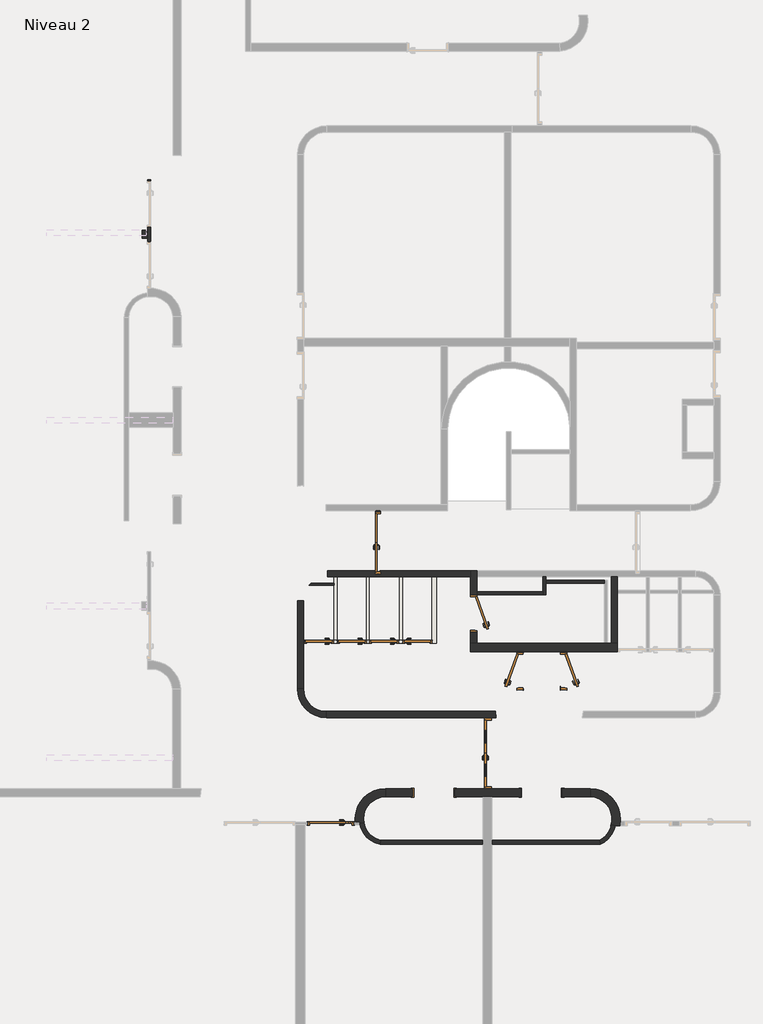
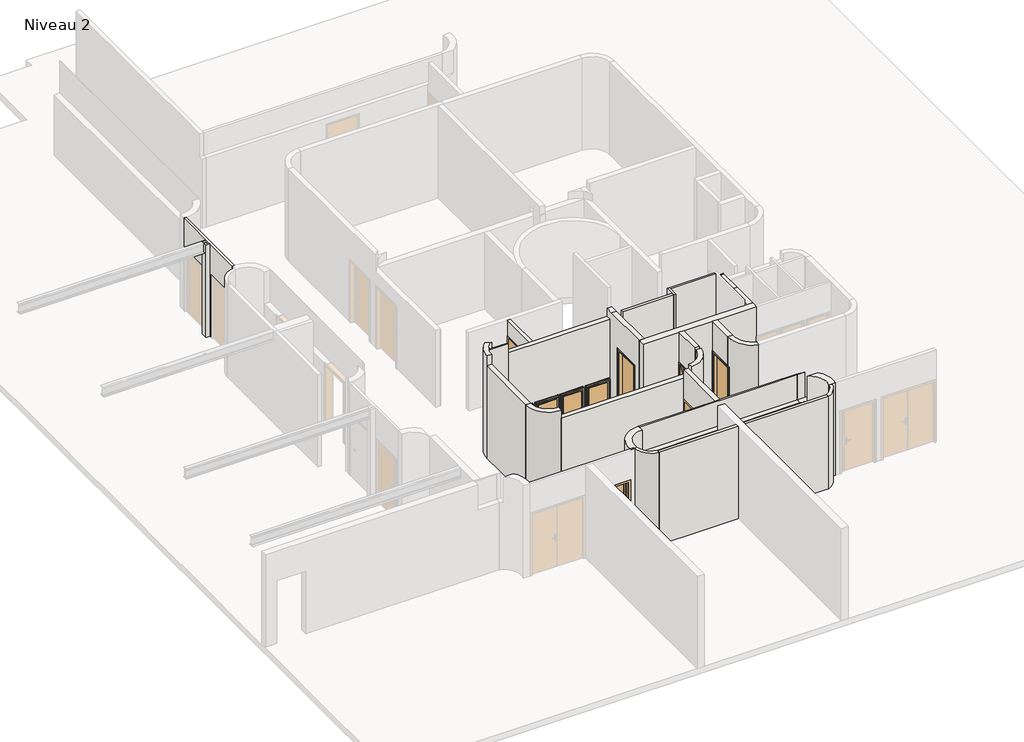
# One storey, part 2 of 5: 32 walls, 12 doors.
"""IFC4 building model written with IfcOpenShell, lengths in millimetres."""

from ifc_helpers import new_model, si_unit, point, frame, frame_2d, origin, place, context, project, spatial, polyline, circle_curve, trimmed, segment, composite_curve, outline, extrude, faceted_brep, transform, mapped, element, save
from ifc_brep_helpers import plane_surface, cylinder_surface, revolved_surface, advanced_brep
from components import door_50a5e481, door_d545ad62, door_cb0b5031, door_c699e053, door_1_10m_x_2_04m_5cb44dee, door_1_63m_x_2_04m_9200e95c, double_r_1_43m_x_2_04m_b80630db, ouverture_en_rectangle_ouverture100x200_67694711, ouverture_en_rectangle_ouverture100x200_505217bf

model = new_model("IFC4")

# Units and contexts
model_context = context("Model", 3, world=origin())
ifc_project = project(units=[si_unit("LENGTHUNIT", "METRE", prefix="MILLI")], contexts=[model_context])

# Site, building, storey
site = spatial("IfcSite", under=ifc_project)
building = spatial("IfcBuilding", under=site)
storey = spatial("IfcBuildingStorey", under=building, Name="Niveau 2", Elevation=7367.3082742)

# Doors
placement = place(None, origin())
door_shape = door_50a5e481(model_context)
element("IfcDoor", 1, ObjectType="@_Int. Simple : @_PP (0.63m x 2.04m)", at=placement, inside=storey, context=model_context, shape_type="MappedRepresentation", body=[
    mapped(door_shape, transform((-15459.9931353, -10489.7074645, 7367.3082742), x_axis=(-1.0, 0.0, 0.0), y_axis=(0.0, -1.0, 0.0), z_axis=(0.0, 0.0, 1.0))),
])
element("IfcDoor", 2, ObjectType="@_Int. Simple : @_PP (0.63m x 2.04m)", at=placement, inside=storey, context=model_context, shape_type="MappedRepresentation", body=[
    mapped(door_shape, transform((-14664.2475761, -10489.7074645, 7367.3082742), x_axis=(-1.0, 0.0, 0.0), y_axis=(0.0, -1.0, 0.0), z_axis=(0.0, 0.0, 1.0))),
])
element("IfcDoor", 3, ObjectType="@_Int. Simple : @_PP (0.63m x 2.04m)", at=placement, inside=storey, context=model_context, shape_type="MappedRepresentation", body=[
    mapped(door_shape, transform((-13884.4973372, -10489.7074645, 7367.3082742), x_axis=(-1.0, 0.0, 0.0), y_axis=(0.0, -1.0, 0.0), z_axis=(0.0, 0.0, 1.0))),
])
door_2_shape = door_d545ad62(model_context)
element("IfcDoor", 4, ObjectType="@_Int. Simple : @_PP (0.63m x 2.04m)", at=placement, inside=storey, context=model_context, shape_type="MappedRepresentation", body=[
    mapped(door_2_shape, transform((-13012.8227922, -10489.7074645, 7367.3082742), x_axis=(1.0, 0.0, 0.0), y_axis=(0.0, 1.0, 0.0), z_axis=(0.0, 0.0, 1.0))),
])
door_3_shape = door_cb0b5031(model_context)
element("IfcDoor", 5, ObjectType="@_Int. Simple : @_PP (0.83m x 2.04m)", at=placement, inside=storey, context=model_context, shape_type="MappedRepresentation", body=[
    mapped(door_3_shape, transform((-11687.2987936, -9770.8638272, 7367.3082742), x_axis=(5.461864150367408e-11, 1.0, 0.0), y_axis=(-1.0, 5.461864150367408e-11, 0.0), z_axis=(0.0, 0.0, 1.0))),
])
element("IfcDoor", 6, ObjectType="@_Int. Simple : @_PP (0.83m x 2.04m)", at=placement, inside=storey, context=model_context, shape_type="MappedRepresentation", body=[
    mapped(door_3_shape, transform((-9520.6528784, -11157.3402809, 7367.3082742), x_axis=(5.461864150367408e-11, 1.0, 0.0), y_axis=(-1.0, 5.461864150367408e-11, 0.0), z_axis=(0.0, 0.0, 1.0))),
])
door_4_shape = door_c699e053(model_context)
element("IfcDoor", 7, ObjectType="@_Int. Simple : @_PP (0.83m x 2.04m)", at=placement, inside=storey, context=model_context, shape_type="MappedRepresentation", body=[
    mapped(door_4_shape, transform((-10570.6528784, -11157.3402808, 7367.3082742), x_axis=(5.461864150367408e-11, 1.0, 0.0), y_axis=(-1.0, 5.461864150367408e-11, 0.0), z_axis=(0.0, 0.0, 1.0))),
])
door_1_10m_x_2_04m_shape = door_1_10m_x_2_04m_5cb44dee(model_context)
element("IfcDoor", 8, ObjectType="Tierce  160 : 1.10m x 2.04m", at=placement, inside=storey, context=model_context, shape_type="MappedRepresentation", body=[
    mapped(door_1_10m_x_2_04m_shape, transform((-15138.9891744, -14870.5536882, 7367.3082742), x_axis=(1.0, 0.0, 0.0), y_axis=(0.0, 1.0, 0.0), z_axis=(0.0, 0.0, 1.0))),
])
door_1_63m_x_2_04m_shape = door_1_63m_x_2_04m_9200e95c(model_context)
element("IfcDoor", 9, ObjectType="Double Vitrée  : 1.63m x 2.04m", at=placement, inside=storey, context=model_context, shape_type="MappedRepresentation", body=[
    mapped(door_1_63m_x_2_04m_shape, transform((-11341.4891708, -13181.6151398, 7367.3082742), x_axis=(0.0, -1.0, 0.0), y_axis=(1.0, 0.0, 0.0), z_axis=(0.0, 0.0, 1.0))),
])
double_r_1_43m_x_2_04m_shape = double_r_1_43m_x_2_04m_b80630db(model_context)
element("IfcDoor", 10, ObjectType="Double (R) : 1.43m x 2.04m", at=placement, inside=storey, context=model_context, shape_type="MappedRepresentation", body=[
    mapped(double_r_1_43m_x_2_04m_shape, transform((-13998.9891737, -8101.6151404, 7367.3082742), x_axis=(0.0, -1.0, 0.0), y_axis=(1.0, 0.0, 0.0), z_axis=(0.0, 0.0, 1.0))),
])
ouverture_en_rectangle_ouverture100x200_shape = ouverture_en_rectangle_ouverture100x200_67694711(model_context)
element("IfcDoor", 11, ObjectType="Ouverture en rectangle : Ouverture100x200", at=placement, inside=storey, context=model_context, shape_type="MappedRepresentation", body=[
    mapped(ouverture_en_rectangle_ouverture100x200_shape, transform((-12650.2337603, -14129.1151398, 7367.3082742), x_axis=(1.0, 0.0, 0.0), y_axis=(0.0, 1.0, 0.0), z_axis=(0.0, 0.0, 1.0))),
])
ouverture_en_rectangle_ouverture100x200_2_shape = ouverture_en_rectangle_ouverture100x200_505217bf(model_context)
element("IfcDoor", 12, ObjectType="Ouverture en rectangle : Ouverture100x200", at=placement, inside=storey, context=model_context, shape_type="MappedRepresentation", body=[
    mapped(ouverture_en_rectangle_ouverture100x200_2_shape, transform((-10052.7445853, -14129.1151398, 7367.3082742), x_axis=(-1.0, 0.0, 0.0), y_axis=(0.0, -1.0, 0.0), z_axis=(0.0, 0.0, 1.0))),
])

# Walls
element("IfcWall", 13, ObjectType="@_Générique - Int. 150 mm", at=placement, inside=storey, context=model_context, shape_type="SweptSolid", body=[
    extrude(outline(polyline([(-15943.9891695, -11619.072224), (-15943.9891695, -9496.2578551), (-15793.9891695, -9496.2578551), (-15793.9891695, -11619.072224), (-15943.9891695, -11619.072224)])), frame((0.0, 0.0, 7367.3082742), z_axis=(0.0, 0.0, 1.0), x_axis=(1.0, 0.0, 0.0)), (0.0, 0.0, 1.0), 3056.0),
])
element("IfcWall", 14, ObjectType="@_Générique - Int. 150 mm", at=placement, inside=storey, context=model_context, shape_type="SweptSolid", body=[
    extrude(outline(composite_curve([segment(polyline([(-15943.9891697, -11619.0722241), (-15793.9891697, -11619.072224)]), True, "CONTINUOUS"), segment(trimmed(circle_curve(frame_2d((-15243.9891698, -11619.072224)), 549.9999999), [point((-15793.9891697, -11619.072224))], [point((-15243.9891698, -12169.0722239))], True, "CARTESIAN"), True, "CONTINUOUS"), segment(polyline([(-15243.9891698, -12169.0722239), (-15243.9891698, -12319.0722239)]), True, "CONTINUOUS"), segment(trimmed(circle_curve(frame_2d((-15243.9891698, -11619.072224)), 699.9999999), [point((-15243.9891698, -12319.0722239))], [point((-15943.9891697, -11619.0722241))], False, "CARTESIAN"), True, "CONTINUOUS")], self_intersect=False)), frame((0.0, 0.0, 7367.3082742), z_axis=(0.0, 0.0, 1.0), x_axis=(1.0, 0.0, 0.0)), (0.0, 0.0, 1.0), 3056.0),
])
element("IfcWall", 15, ObjectType="@_Générique - Int. 100 mm", at=placement, inside=storey, context=model_context, shape_type="SweptSolid", body=[
    extrude(outline(polyline([(-8771.2578553, 9953.3082742), (-7329.1151392, 9953.3082742), (-7329.1151392, 7367.3082742), (-7351.6151404, 7367.3082742), (-7351.6151404, 9442.3082742), (-8771.2578553, 9442.3082742), (-8771.2578553, 9953.3082742)])), frame((-14048.9891737, 0.0, 0.0), z_axis=(1.0, 0.0, 0.0), x_axis=(0.0, 1.0, 0.0)), (0.0, 0.0, 1.0), 100.0),
])
element("IfcWall", 16, ObjectType="@_Générique - Int. 100 mm", at=placement, inside=storey, context=model_context, shape_type="SweptSolid", body=[
    extrude(outline(composite_curve([segment(polyline([(-13934.8328839, -15276.2959839), (-13945.4132156, -15376.2959839)]), True, "CONTINUOUS"), segment(trimmed(circle_curve(frame_2d((-13818.9783494, -14759.113495)), 630.0), [point((-13945.4132156, -15376.2959839))], [point((-14439.0437358, -14870.5536882))], False, "CARTESIAN"), True, "CONTINUOUS"), segment(polyline([(-14439.0437358, -14870.5536882), (-14340.6206586, -14852.8647686)]), True, "CONTINUOUS"), segment(trimmed(circle_curve(frame_2d((-13818.9783494, -14759.113495)), 530.0), [point((-14340.6206586, -14852.8647686))], [point((-13934.8328839, -15276.2959839))], True, "CARTESIAN"), True, "CONTINUOUS")], self_intersect=False)), frame((0.0, 0.0, 7367.3082742), z_axis=(0.0, 0.0, 1.0), x_axis=(1.0, 0.0, 0.0)), (0.0, 0.0, 1.0), 3056.0),
])
element("IfcWall", 17, ObjectType="@_Générique - Int. 100 mm", at=placement, inside=storey, context=model_context, shape_type="SweptSolid", body=[
    extrude(outline(polyline([(-13934.8328839, -15276.2959839), (-11466.579726, -15276.2959839), (-11466.579726, -15376.2959839), (-13945.4132156, -15376.2959839), (-13934.8328839, -15276.2959839)])), frame((0.0, 0.0, 7367.3082742), z_axis=(0.0, 0.0, 1.0), x_axis=(1.0, 0.0, 0.0)), (0.0, 0.0, 1.0), 3056.0),
])
element("IfcWall", 18, ObjectType="@_Générique - Int. 100 mm", at=placement, inside=storey, context=model_context, shape_type="SweptSolid", body=[
    extrude(outline(composite_curve([segment(polyline([(-8369.3653638, -14903.9262537), (-8271.0746577, -14922.3364981)]), True, "CONTINUOUS"), segment(trimmed(circle_curve(frame_2d((-8875.5625, -14809.1134946)), 615.0), [point((-8271.0746577, -14922.3364981))], [point((-8637.8041693, -15376.2959839))], False, "CARTESIAN"), True, "CONTINUOUS"), segment(polyline([(-8637.8041693, -15376.2959839), (-8658.847199, -15276.2959839)]), True, "CONTINUOUS"), segment(trimmed(circle_curve(frame_2d((-8875.5625, -14809.1134946)), 515.0), [point((-8658.847199, -15276.2959839))], [point((-8369.3653638, -14903.9262537))], True, "CARTESIAN"), True, "CONTINUOUS")], self_intersect=False)), frame((0.0, 0.0, 7367.3082742), z_axis=(0.0, 0.0, 1.0), x_axis=(1.0, 0.0, 0.0)), (0.0, 0.0, 1.0), 3056.0),
])
element("IfcWall", 19, ObjectType="@_Générique - Int. 100 mm", at=placement, inside=storey, context=model_context, shape_type="SweptSolid", body=[
    extrude(outline(polyline([(-8637.8041693, -15376.2959839), (-11246.579726, -15376.2959839), (-11246.579726, -15276.2959839), (-8658.847199, -15276.2959839), (-8637.8041693, -15376.2959839)])), frame((0.0, 0.0, 7367.3082742), z_axis=(0.0, 0.0, 1.0), x_axis=(1.0, 0.0, 0.0)), (0.0, 0.0, 1.0), 3056.0),
])
element("IfcWall", 20, ObjectType="@_Générique - Int. 70 mm", at=placement, inside=storey, context=model_context, shape_type="AdvancedBrep", body=[
    advanced_brep(
    [(-19486.5153154, 652.2622315, 10423.3082742), (-19486.5153146, -1964.949065, 10423.3082742), (-19486.5153146, -1964.949065, 9442.3082742), (-19486.5153149, -850.74322, 9442.3082742), (-19486.5153149, -850.74322, 7367.3082742), (-19486.5153151, -492.3916733, 7367.3082742), (-19486.5153151, -492.3916733, 9442.3082742), (-19486.5153154, 627.6083267, 9442.3082742), (-19486.5153154, 627.6083267, 7367.3082742), (-19486.5153154, 652.2622315, 7367.3082742), (-19556.5153146, -1969.6922731, 10423.3082742), (-19556.5153154, 658.4587675, 10423.3082742), (-19556.5153154, 658.4587675, 7367.3082742), (-19556.5153154, 627.6083267, 7367.3082742), (-19556.5153154, 627.6083267, 9442.3082742), (-19556.5153151, -492.3916733, 9442.3082742), (-19556.5153151, -492.3916733, 7367.3082742), (-19556.5153149, -850.74322, 7367.3082742), (-19556.5153149, -850.74322, 9442.3082742), (-19556.5153146, -1969.6922731, 9442.3082742)],
    [
        (0, 1),
        (1, 2),
        (2, 3),
        (3, 4),
        (4, 5),
        (5, 6),
        (6, 7),
        (7, 8),
        (8, 9),
        (9, 0),
        (10, 11),
        (11, 12),
        (12, 13),
        (13, 14),
        (14, 15),
        (15, 16),
        (16, 17),
        (17, 18),
        (18, 19),
        (19, 10),
        (12, 9, circle_curve(frame((-19457.2206146, 1381.6742005, 7367.3082742), z_axis=(0.0, 0.0, 1.0), x_axis=(1.0, 3.743740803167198e-10, 0.0)), 730.0)),
        (8, 13),
        (16, 5),
        (4, 17),
        (0, 11, circle_curve(frame((-19457.2206146, 1381.6742005, 10423.3082742), z_axis=(0.0, 0.0, -1.0), x_axis=(1.0, 3.743740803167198e-10, 0.0)), 730.0)),
        (10, 1, circle_curve(frame((-19472.2206146, -2694.8090938, 10423.3082742), z_axis=(0.0, 0.0, -1.0), x_axis=(1.0, -3.7438053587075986e-10, 0.0)), 730.0)),
        (19, 2, circle_curve(frame((-19472.2206146, -2694.8090938, 9442.3082742), z_axis=(0.0, 0.0, -1.0), x_axis=(1.0, -3.7438053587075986e-10, 0.0)), 730.0)),
        (7, 14),
        (6, 15),
        (18, 3),
    ],
    [
        plane_surface(frame((-19486.5153137, -4651.2761968, 7367.3082742), z_axis=(1.0, 3.2540088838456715e-10, 0.0), x_axis=(-3.2540088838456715e-10, 1.0, 0.0))),
        plane_surface(frame((-19556.5153137, -4651.2761968, 7367.3082742), z_axis=(-1.0, -3.2540088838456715e-10, 0.0), x_axis=(3.2540088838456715e-10, -1.0, 0.0))),
        plane_surface(frame((-19486.5153145, -2066.7406002, 7367.3082742), z_axis=(0.0, 0.0, -1.0), x_axis=(-1.0, -3.254015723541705e-10, 0.0))),
        plane_surface(frame((-25603.9891731, 10580.8848592, 10423.3082742), z_axis=(0.0, 0.0, 1.0), x_axis=(0.0, 1.0, 0.0))),
        revolved_surface(polyline([(-18727.2206146, 1381.6742007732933, 10423.3082742), (-18727.2206146, 1381.6742007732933, 7367.3082742)]), (-19457.2206146, 1381.6742005, 7367.3082742), (0.0, 0.0, 1.0)),
        revolved_surface(polyline([(-18742.2206146, -2694.8090940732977, 10423.3082742), (-18742.2206146, -2694.8090940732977, 9442.3082742)]), (-19472.2206146, -2694.8090938, 7367.3082742), (0.0, 0.0, 1.0)),
        plane_surface(frame((-17962.5153154, 627.6083272, 7367.3082742), z_axis=(3.254009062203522e-10, -1.0, 0.0), x_axis=(-1.0, -3.254009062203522e-10, 0.0))),
        plane_surface(frame((-17962.5153154, 627.6083272, 9442.3082742), z_axis=(0.0, 0.0, -1.0), x_axis=(-1.0, -3.254009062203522e-10, 0.0))),
        plane_surface(frame((-17962.5153151, -492.3916728, 9442.3082742), z_axis=(-3.2540086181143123e-10, 1.0, 0.0), x_axis=(-1.0, -3.2540086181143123e-10, 0.0))),
        plane_surface(frame((-21010.5153146, -1970.7432205, 9442.3082742), z_axis=(0.0, 0.0, -1.0), x_axis=(1.0, 3.2540086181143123e-10, 0.0))),
        plane_surface(frame((-21010.5153149, -850.7432205, 9442.3082742), z_axis=(3.254009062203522e-10, -1.0, 0.0), x_axis=(1.0, 3.254009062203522e-10, 0.0))),
    ],
    [
        (0, [[1, 2, 3, 4, 5, 6, 7, 8, 9, 10]]),
        (1, [[11, 12, 13, 14, 15, 16, 17, 18, 19, 20]]),
        (2, [[21, -9, 22, -13]]),
        (2, [[23, -5, 24, -17]]),
        (3, [[-1, 25, -11, 26]]),
        (4, [[-10, -21, -12, -25]]),
        (5, [[-26, -20, 27, -2]]),
        (6, [[-14, -22, -8, 28]]),
        (7, [[29, -15, -28, -7]]),
        (8, [[-29, -6, -23, -16]]),
        (9, [[30, -3, -27, -19]]),
        (10, [[-30, -18, -24, -4]]),
    ],
),
])
element("IfcWall", 21, ObjectType="@_Générique - Int. 200 mm", at=placement, inside=storey, context=model_context, shape_type="SweptSolid", body=[
    extrude(outline(polyline([(-19556.515315, -761.5674466), (-19688.6398196, -761.5674466), (-19688.6398196, -561.5674466), (-19556.515315, -561.5674466), (-19556.515315, -761.5674466)])), frame((0.0, 0.0, 7367.3082742), z_axis=(0.0, 0.0, 1.0), x_axis=(1.0, 0.0, 0.0)), (0.0, 0.0, 1.0), 3056.0),
])
element("IfcWall", 22, ObjectType="@_Générique - Int. 150 mm", at=placement, inside=storey, context=model_context, shape_type="AdvancedBrep", body=[
    advanced_brep(
    [(-9061.0734527, -12319.0722257, 7367.3082742), (-9595.6528785, -11566.4736648, 7367.3082742), (-9595.6528785, -11642.3402809, 7367.3082742), (-9446.5821235, -11642.3402809, 7367.3082742), (-9039.5387792, -12169.0722257, 7367.3082742), (-9039.5387792, -12169.0722257, 10423.3082742), (-9446.5821235, -11642.3402809, 9442.3082742), (-9445.6528785, -11571.7074344, 9442.3082742), (-9445.6528785, -11571.7074344, 10423.3082742), (-9061.0734527, -12319.0722257, 10423.3082742), (-9595.6528785, -11566.4736648, 10423.3082742), (-9595.6528785, -11566.4736648, 9442.3082742), (-9595.6528785, -11642.3402809, 9442.3082742)],
    [
        (0, 1, circle_curve(frame((-8866.421324, -11614.6503348, 7367.3082742), z_axis=(0.0, 0.0, -1.0), x_axis=(-0.613352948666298, 0.7898089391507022, 0.0)), 730.8212172)),
        (1, 2),
        (2, 3),
        (3, 4, circle_curve(frame((-8866.421324, -11614.6503348, 7367.3082742), z_axis=(0.0, 0.0, 1.0), x_axis=(-0.613352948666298, 0.7898089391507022, 0.0)), 580.8212172)),
        (4, 0),
        (5, 4),
        (3, 6),
        (6, 7, circle_curve(frame((-8866.421324, -11614.6503348, 9442.3082742), z_axis=(0.0, 0.0, -1.0), x_axis=(-0.613352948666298, 0.7898089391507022, 0.0)), 580.8212172)),
        (7, 8),
        (8, 5, circle_curve(frame((-8866.421324, -11614.6503348, 10423.3082742), z_axis=(0.0, 0.0, 1.0), x_axis=(-0.613352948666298, 0.7898089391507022, 0.0)), 580.8212172)),
        (0, 9),
        (9, 10, circle_curve(frame((-8866.421324, -11614.6503348, 10423.3082742), z_axis=(0.0, 0.0, -1.0), x_axis=(-0.613352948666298, 0.7898089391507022, 0.0)), 730.8212172)),
        (10, 11),
        (11, 1),
        (5, 9),
        (8, 10),
        (12, 2),
        (11, 12),
        (11, 7),
        (6, 12),
    ],
    [
        plane_surface(frame((-9222.6697302, -11155.9125453, 7367.3082742), z_axis=(0.0, 0.0, -1.0), x_axis=(-0.7898089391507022, -0.613352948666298, 0.0))),
        revolved_surface(polyline([(-9222.669730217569, -11155.912545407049, 7367.3082742), (-9222.669730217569, -11155.912545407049, 10423.3082742)]), (-8866.421324, -11614.6503348, 7367.3082742), (0.0, 0.0, -1.0)),
        cylinder_surface(frame((-8866.421324, -11614.6503348, 7367.3082742), z_axis=(0.0, 0.0, 1.0), x_axis=(-0.613352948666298, 0.7898089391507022, 0.0)), 730.8212172),
        plane_surface(frame((-9061.0734527, -12319.0722257, 7367.3082742), z_axis=(0.9898512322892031, -0.1421074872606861, 0.0), x_axis=(0.1421074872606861, 0.9898512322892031, 0.0))),
        plane_surface(frame((-25603.9891731, 10580.8848592, 10423.3082742), z_axis=(0.0, 0.0, 1.0), x_axis=(0.0, 1.0, 0.0))),
        plane_surface(frame((-9595.6528784, -10742.3402809, 7367.3082742), z_axis=(1.0, -5.461864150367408e-11, 0.0), x_axis=(0.0, 0.0, -1.0))),
        plane_surface(frame((-9445.6528784, -10742.3402809, 9442.3082742), z_axis=(0.0, 0.0, -1.0), x_axis=(-1.0, 5.4619818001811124e-11, 0.0))),
        plane_surface(frame((-9445.6528785, -11642.3402809, 9442.3082742), z_axis=(5.4619818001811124e-11, 1.0, 0.0), x_axis=(-1.0, 5.4619818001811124e-11, 0.0))),
        plane_surface(frame((-9445.6528785, -11571.7074344, 7367.3082742), z_axis=(0.03487057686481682, 0.999391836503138, 0.0), x_axis=(-0.999391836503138, 0.03487057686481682, 0.0))),
    ],
    [
        (0, [[1, 2, 3, 4, 5]]),
        (1, [[6, -4, 7, 8, 9, 10]]),
        (2, [[-1, 11, 12, 13, 14]]),
        (3, [[-11, -5, -6, 15]]),
        (4, [[-10, 16, -12, -15]]),
        (5, [[17, -2, -14, 18]]),
        (6, [[-18, 19, -8, 20]]),
        (7, [[-17, -20, -7, -3]]),
        (8, [[-16, -9, -19, -13]]),
    ],
),
])
element("IfcWall", 23, ObjectType="@_Générique - Int. 150 mm", at=placement, inside=storey, context=model_context, shape_type="SweptSolid", body=[
    extrude(outline(composite_curve([segment(polyline([(-11157.0437384, -12319.0722258), (-11162.0509595, -12169.0722258)]), True, "CONTINUOUS"), segment(trimmed(circle_curve(frame_2d((-11201.4665939, -11614.6503348)), 555.8212172), [point((-11162.0509595, -12169.0722258))], [point((-10648.1484258, -11667.3402808))], True, "CARTESIAN"), True, "CONTINUOUS"), segment(polyline([(-10648.1484258, -11667.3402808), (-10498.823926, -11681.5597667)]), True, "CONTINUOUS"), segment(trimmed(circle_curve(frame_2d((-11201.4665939, -11614.6503348)), 705.8212172), [point((-10498.823926, -11681.5597667))], [point((-11157.0437384, -12319.0722258))], False, "CARTESIAN"), True, "CONTINUOUS")], self_intersect=False)), frame((0.0, 0.0, 7367.3082742), z_axis=(0.0, 0.0, 1.0), x_axis=(1.0, 0.0, 0.0)), (0.0, 0.0, 1.0), 3056.0),
])
element("IfcWall", 24, ObjectType="@_Générique - Int. 200 mm", at=placement, inside=storey, context=model_context, shape_type="Brep", body=[
    faceted_brep([(-8217.2987936, -10527.340281, 7367.3082742), (-11762.2987936, -10527.3402808, 7367.3082742), (-11762.2987936, -10527.3402808, 10423.3082742), (-8217.2987936, -10527.340281, 10423.3082742), (-8217.2987936, -10727.340281, 7367.3082742), (-8217.2987936, -10727.340281, 9442.3082742), (-8217.2987936, -10727.340281, 10423.3082742), (-11762.2987936, -10727.3402808, 10423.3082742), (-11762.2987936, -10727.3402808, 7367.3082742), (-8217.2987936, -10657.340281, 10423.3082742)], [[[0, 1, 2, 3]], [[4, 5, 6, 7, 8]], [[1, 0, 4, 8]], [[3, 2, 7, 6, 9]], [[0, 3, 9, 6, 5, 4]], [[2, 1, 8, 7]]]),
])
element("IfcWall", 25, ObjectType="@_Générique - Int. 150 mm", at=placement, inside=storey, context=model_context, shape_type="Brep", body=[
    faceted_brep([(-9595.6528785, -11566.4736648, 10423.3082742), (-9595.6528784, -10727.3402809, 10423.3082742), (-9595.6528784, -10727.3402809, 7367.3082742), (-9595.6528784, -10742.3402809, 7367.3082742), (-9595.6528784, -10742.3402809, 9442.3082742), (-9595.6528785, -11566.4736648, 9442.3082742), (-9445.6528784, -10727.3402809, 10423.3082742), (-9445.6528785, -11571.7074344, 10423.3082742), (-9445.6528785, -11571.7074344, 9442.3082742), (-9445.6528784, -10742.3402809, 9442.3082742), (-9445.6528784, -10742.3402809, 7367.3082742), (-9445.6528784, -10727.3402809, 7367.3082742)], [[[0, 1, 2, 3, 4, 5]], [[6, 7, 8, 9, 10, 11]], [[2, 11, 10, 3]], [[1, 0, 7, 6]], [[2, 1, 6, 11]], [[9, 4, 3, 10]], [[4, 9, 8, 5]], [[7, 0, 5, 8]]]),
])
element("IfcWall", 26, ObjectType="@_Générique - Int. 150 mm", at=placement, inside=storey, context=model_context, shape_type="SweptSolid", body=[
    extrude(outline(polyline([(363.9928587, -3056.0), (-486.393652, -3056.0), (-486.393652, 0.0), (-471.393652, 0.0), (-471.393652, -2075.0), (363.9928587, -2075.0), (363.9928587, -3056.0)])), frame((-10645.6528784, -11213.7339328, 7367.3082742), z_axis=(1.0, -5.461864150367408e-11, 0.0), x_axis=(-5.461864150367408e-11, -1.0, 0.0)), (0.0, 0.0, 1.0), 150.0),
])
element("IfcWall", 27, ObjectType="@_Générique - Int. 150 mm", at=placement, inside=storey, context=model_context, shape_type="SweptSolid", body=[
    extrude(outline(polyline([(-14029.1151398, 10423.3082742), (-12319.0722258, 10423.3082742), (-12319.0722258, 7367.3082742), (-12326.6151398, 7367.3082742), (-12326.6151398, 9447.3082742), (-14029.1151398, 9447.3082742), (-14029.1151398, 10423.3082742)])), frame((-11416.4891708, 0.0, 0.0), z_axis=(1.0, 0.0, 0.0), x_axis=(0.0, 1.0, 0.0)), (0.0, 0.0, 1.0), 150.0),
])
element("IfcWall", 28, ObjectType="@_Générique - Int. 150 mm", at=placement, inside=storey, context=model_context, shape_type="Brep", body=[
    faceted_brep([(-15218.9891693, -8771.2578551, 7367.3082742), (-15218.9891693, -8771.2578551, 9953.3082742), (-15218.9891693, -8771.2578551, 10153.3082742), (-11762.2987935, -8771.2578557, 10153.3082742), (-11762.2987935, -8771.2578557, 7367.3082742), (-13948.9891737, -8771.2578553, 7367.3082742), (-13948.9891737, -8771.2578553, 9442.3082742), (-14048.9891737, -8771.2578553, 9442.3082742), (-14048.9891737, -8771.2578553, 7367.3082742), (-15218.9891693, -8921.2578551, 7367.3082742), (-11762.2987935, -8921.2578557, 7367.3082742), (-11762.2987935, -8921.2578557, 10153.3082742), (-15218.9891693, -8921.2578551, 10153.3082742), (-15218.9891693, -8921.2578551, 9953.3082742), (-14048.9891737, -8851.6151404, 7367.3082742), (-13948.9891737, -8851.6151404, 7367.3082742), (-14048.9891737, -8851.6151404, 9442.3082742), (-13948.9891737, -8851.6151404, 9442.3082742)], [[[0, 1, 2, 3, 4, 5, 6, 7, 8]], [[9, 10, 11, 12, 13]], [[10, 9, 0, 8, 14, 15, 5, 4]], [[2, 1, 0, 9, 13, 12]], [[3, 2, 12, 11]], [[4, 3, 11, 10]], [[16, 14, 8, 7]], [[15, 17, 6, 5]], [[14, 16, 17, 15]], [[17, 16, 7, 6]]]),
])
element("IfcWall", 29, ObjectType="@_Générique - Int. 100 mm", at=placement, inside=storey, context=model_context, shape_type="Brep", body=[
    faceted_brep([(-12590.898471, -10524.7074645, 7367.3082742), (-12590.8984869, -8921.2578556, 7367.3082742), (-12590.8984869, -8921.2578556, 7567.3082742), (-12590.898471, -10524.7074645, 7567.3082742), (-12690.898471, -10524.7074645, 7367.3082742), (-12690.898471, -10524.7074645, 7567.3082742), (-12690.8984717, -10454.7074645, 7567.3082742), (-12690.8984869, -8921.2578555, 7567.3082742), (-12690.8984869, -8921.2578555, 7367.3082742), (-12690.8984717, -10454.7074645, 7367.3082742)], [[[0, 1, 2, 3]], [[4, 5, 6, 7, 8, 9]], [[1, 0, 4, 9, 8]], [[3, 2, 7, 6, 5]], [[2, 1, 8, 7]], [[0, 3, 5, 4]]]),
])
element("IfcWall", 30, ObjectType="@_Générique - Int. 70 mm", at=placement, inside=storey, context=model_context, shape_type="SweptSolid", body=[
    extrude(outline(polyline([(-14209.2475769, -8921.2578553), (-14209.2475617, -10454.7074645), (-14279.2475617, -10454.7074645), (-14279.2475769, -8921.2578552), (-14209.2475769, -8921.2578553)])), frame((0.0, 0.0, 7367.3082742), z_axis=(0.0, 0.0, 1.0), x_axis=(1.0, 0.0, 0.0)), (0.0, 0.0, 1.0), 200.0),
])
element("IfcWall", 31, ObjectType="@_Générique - Int. 70 mm", at=placement, inside=storey, context=model_context, shape_type="SweptSolid", body=[
    extrude(outline(polyline([(-13404.747099, -8921.2578554), (-13404.7470838, -10454.7074645), (-13474.7470838, -10454.7074645), (-13474.747099, -8921.2578554), (-13404.747099, -8921.2578554)])), frame((0.0, 0.0, 7367.3082742), z_axis=(0.0, 0.0, 1.0), x_axis=(1.0, 0.0, 0.0)), (0.0, 0.0, 1.0), 200.0),
])
element("IfcWall", 32, ObjectType="@_Générique - Int. 70 mm", at=placement, inside=storey, context=model_context, shape_type="Brep", body=[
    faceted_brep([(-14989.7470838, -10454.7074645, 7367.3082742), (-14989.747099, -8921.2578551, 7367.3082742), (-14989.747099, -8921.2578551, 7567.3082742), (-14989.7470838, -10454.7074645, 7567.3082742), (-15059.7470838, -10454.7074645, 7367.3082742), (-15059.7470838, -10454.7074645, 7567.3082742), (-15059.747099, -8921.2578551, 7567.3082742), (-15059.747099, -8921.2578551, 7367.3082742), (-15059.7470975, -9078.6680289, 7367.3082742), (-15059.747097, -9128.6680289, 7367.3082742)], [[[0, 1, 2, 3]], [[4, 5, 6, 7, 8, 9]], [[1, 0, 4, 9, 8, 7]], [[3, 2, 6, 5]], [[2, 1, 7, 6]], [[0, 3, 5, 4]]]),
])
element("IfcWall", 33, ObjectType="@_Générique - Int. 50 mm", at=placement, inside=storey, context=model_context, shape_type="SweptSolid", body=[
    extrude(outline(composite_curve([segment(polyline([(-15059.747097, -9128.6680289), (-15661.1460643, -9128.6680289)]), True, "CONTINUOUS"), segment(trimmed(circle_curve(frame_2d((-15218.9891694, -9496.2578551)), 575.0), [point((-15661.1460643, -9128.6680289))], [point((-15614.2659548, -9078.6680289))], False, "CARTESIAN"), True, "CONTINUOUS"), segment(polyline([(-15614.2659548, -9078.6680289), (-15059.7470975, -9078.6680289), (-15059.747097, -9128.6680289)]), True, "CONTINUOUS")], self_intersect=False)), frame((0.0, 0.0, 7367.3082742), z_axis=(0.0, 0.0, 1.0), x_axis=(1.0, 0.0, 0.0)), (0.0, 0.0, 1.0), 3245.4355104),
])
element("IfcWall", 34, ObjectType="@_Générique - Int. 70 mm", at=placement, inside=storey, context=model_context, shape_type="Brep", body=[
    faceted_brep([(-10015.0633349, -8921.257856, 7367.3082742), (-10015.0633349, -9285.8638272, 7367.3082742), (-10015.0633349, -9355.8638272, 7367.3082742), (-10015.0633349, -9355.8638272, 10612.7437846), (-10015.0633349, -9285.8638272, 10612.7437846), (-10015.0633349, -9009.1151399, 10612.7437846), (-10015.0633349, -9009.1151399, 9953.3082742), (-10015.0633349, -8921.257856, 9953.3082742), (-9945.0633349, -8921.2578561, 7367.3082742), (-9945.0633349, -8921.2578561, 9953.3082742), (-9945.0633349, -9009.1151399, 9953.3082742), (-9945.0633349, -9009.1151399, 10612.7437846), (-9945.0633349, -9355.8638272, 10612.7437846), (-9945.0633349, -9355.8638272, 7367.3082742)], [[[0, 1, 2, 3, 4, 5, 6, 7]], [[8, 9, 10, 11, 12, 13]], [[2, 1, 0, 8, 13]], [[5, 4, 3, 12, 11]], [[3, 2, 13, 12]], [[6, 10, 9, 7]], [[0, 7, 9, 8]], [[5, 11, 10, 6]]]),
])
element("IfcWall", 35, ObjectType="@_Générique - Int. 70 mm", at=placement, inside=storey, context=model_context, shape_type="SweptSolid", body=[
    extrude(outline(polyline([(-10015.0633349, -9355.8638272), (-11612.2987936, -9355.8638272), (-11612.2987936, -9285.8638272), (-10015.0633349, -9285.8638272), (-10015.0633349, -9355.8638272)])), frame((0.0, 0.0, 7367.3082742), z_axis=(0.0, 0.0, 1.0), x_axis=(1.0, 0.0, 0.0)), (0.0, 0.0, 1.0), 3245.4355104),
])
element("IfcWall", 36, ObjectType="@_Générique - Int. 70 mm", at=placement, inside=storey, context=model_context, shape_type="Brep", body=[
    faceted_brep([(-15793.9891695, -10524.7074645, 7367.3082742), (-15774.9931353, -10524.7074645, 7367.3082742), (-15774.9931353, -10524.7074645, 7567.3082742), (-15793.9891695, -10524.7074645, 7567.3082742), (-15774.9931353, -10454.7074645, 7367.3082742), (-15793.9891695, -10454.7074645, 7367.3082742), (-15793.9891695, -10454.7074645, 7567.3082742), (-15774.9931353, -10454.7074645, 7567.3082742)], [[[0, 1, 2, 3]], [[4, 5, 6, 7]], [[1, 0, 5, 4]], [[3, 2, 7, 6]], [[2, 1, 4, 7]], [[0, 3, 6, 5]]]),
    faceted_brep([(-15074.9931353, -10524.7074645, 7567.3082742), (-15074.9931353, -10524.7074645, 7367.3082742), (-14979.2475761, -10524.7074645, 7367.3082742), (-14979.2475761, -10524.7074645, 7567.3082742), (-15074.9931353, -10454.7074645, 7367.3082742), (-15074.9931353, -10454.7074645, 7567.3082742), (-15059.7470838, -10454.7074645, 7567.3082742), (-14989.7470838, -10454.7074645, 7567.3082742), (-14979.2475761, -10454.7074645, 7567.3082742), (-14979.2475761, -10454.7074645, 7367.3082742), (-14989.7470838, -10454.7074645, 7367.3082742), (-15059.7470838, -10454.7074645, 7367.3082742)], [[[0, 1, 2, 3]], [[4, 5, 6, 7, 8, 9, 10, 11]], [[1, 4, 11, 10, 9, 2]], [[5, 0, 3, 8, 7, 6]], [[1, 0, 5, 4]], [[3, 2, 9, 8]]]),
    faceted_brep([(-14279.2475761, -10524.7074645, 7567.3082742), (-14279.2475761, -10524.7074645, 7367.3082742), (-14199.4973372, -10524.7074645, 7367.3082742), (-14199.4973372, -10524.7074645, 7567.3082742), (-14279.2475761, -10454.7074645, 7367.3082742), (-14279.2475761, -10454.7074645, 7567.3082742), (-14209.2475617, -10454.7074645, 7567.3082742), (-14199.4973372, -10454.7074645, 7567.3082742), (-14199.4973372, -10454.7074645, 7367.3082742), (-14209.2475617, -10454.7074645, 7367.3082742)], [[[0, 1, 2, 3]], [[4, 5, 6, 7, 8, 9]], [[1, 4, 9, 8, 2]], [[5, 0, 3, 7, 6]], [[1, 0, 5, 4]], [[3, 2, 8, 7]]]),
    faceted_brep([(-13499.4973372, -10524.7074645, 7567.3082742), (-13499.4973372, -10524.7074645, 7367.3082742), (-13397.8227922, -10524.7074645, 7367.3082742), (-13397.8227922, -10524.7074645, 7567.3082742), (-13499.4973372, -10454.7074645, 7367.3082742), (-13499.4973372, -10454.7074645, 7567.3082742), (-13474.7470838, -10454.7074645, 7567.3082742), (-13404.7470838, -10454.7074645, 7567.3082742), (-13397.8227922, -10454.7074645, 7567.3082742), (-13397.8227922, -10454.7074645, 7367.3082742), (-13404.7470838, -10454.7074645, 7367.3082742), (-13474.7470838, -10454.7074645, 7367.3082742)], [[[0, 1, 2, 3]], [[4, 5, 6, 7, 8, 9, 10, 11]], [[1, 4, 11, 10, 9, 2]], [[5, 0, 3, 8, 7, 6]], [[1, 0, 5, 4]], [[3, 2, 9, 8]]]),
    faceted_brep([(-12690.898471, -10524.7074645, 7367.3082742), (-12690.898471, -10524.7074645, 7567.3082742), (-12697.8227922, -10524.7074645, 7567.3082742), (-12697.8227922, -10524.7074645, 7367.3082742), (-12690.8984717, -10454.7074645, 7567.3082742), (-12690.8984717, -10454.7074645, 7367.3082742), (-12697.8227922, -10454.7074645, 7367.3082742), (-12697.8227922, -10454.7074645, 7567.3082742)], [[[0, 1, 2, 3]], [[4, 5, 6, 7]], [[5, 0, 3, 6]], [[1, 4, 7, 2]], [[3, 2, 7, 6]], [[1, 0, 5, 4]]]),
])
element("IfcWall", 37, ObjectType="@_Générique - Int. 150 mm", at=placement, inside=storey, context=model_context, shape_type="AdvancedBrep", body=[
    advanced_brep(
    [(-15677.1625398, -8934.384059, 10753.3082742), (-15943.9891695, -9496.257855, 10753.3082742), (-15793.9891695, -9496.257855, 10753.3082742), (-15504.8126877, -8997.3290862, 10753.3082742), (-15218.9891693, -8771.2578551, 7367.3082742), (-15218.9891693, -8921.2578551, 7367.3082742), (-15793.9891695, -9496.257855, 7367.3082742), (-15943.9891695, -9496.257855, 7367.3082742), (-15677.1625398, -8934.384059, 9953.3082742), (-15218.9891693, -8771.2578551, 9953.3082742), (-15943.9891695, -9496.257855, 10423.3082742), (-15793.9891695, -9496.257855, 10423.3082742), (-15218.9891693, -8921.2578551, 9953.3082742), (-15504.8126877, -8997.3290862, 9953.3082742)],
    [
        (0, 1, circle_curve(frame((-15218.9891694, -9496.2578551, 10753.3082742), z_axis=(0.0, 0.0, 1.0), x_axis=(-1.0, 1.2903983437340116e-10, 0.0)), 725.0)),
        (1, 2),
        (2, 3, circle_curve(frame((-15218.9891694, -9496.2578551, 10753.3082742), z_axis=(0.0, 0.0, -1.0), x_axis=(-1.0, 1.2903983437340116e-10, 0.0)), 575.0)),
        (3, 0, circle_curve(frame((-15377.0232961, -8380.0006258, 10753.3082742), z_axis=(0.0, 0.0, -1.0), x_axis=(1.0, 0.0, 0.0)), 630.4161773)),
        (4, 5),
        (5, 6, circle_curve(frame((-15218.9891694, -9496.2578551, 7367.3082742), z_axis=(0.0, 0.0, 1.0), x_axis=(-1.0, 1.2903983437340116e-10, 0.0)), 575.0)),
        (6, 7),
        (7, 4, circle_curve(frame((-15218.9891694, -9496.2578551, 7367.3082742), z_axis=(0.0, 0.0, -1.0), x_axis=(-1.0, 1.2903983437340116e-10, 0.0)), 725.0)),
        (0, 8),
        (8, 9, circle_curve(frame((-15218.9891694, -9496.2578551, 9953.3082742), z_axis=(0.0, 0.0, -1.0), x_axis=(-1.0, 1.2903983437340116e-10, 0.0)), 725.0)),
        (9, 4),
        (7, 10),
        (10, 1),
        (6, 11),
        (11, 2),
        (5, 12),
        (12, 13, circle_curve(frame((-15218.9891694, -9496.2578551, 9953.3082742), z_axis=(0.0, 0.0, 1.0), x_axis=(-1.0, 1.2903983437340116e-10, 0.0)), 575.0)),
        (13, 3),
        (9, 12),
        (8, 13, circle_curve(frame((-15377.0232961, -8380.0006258, 9953.3082742), z_axis=(0.0, 0.0, 1.0), x_axis=(1.0, 0.0, 0.0)), 630.4161773)),
    ],
    [
        plane_surface(frame((-15943.9891695, -9496.257855, 10753.3082742), z_axis=(0.0, 0.0, 1.0), x_axis=(-1.2903983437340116e-10, -1.0, 0.0))),
        plane_surface(frame((-15943.9891695, -9496.257855, 7367.3082742), z_axis=(0.0, 0.0, -1.0), x_axis=(1.2903983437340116e-10, 1.0, 0.0))),
        cylinder_surface(frame((-15218.9891694, -9496.2578551, 7367.3082742), z_axis=(0.0, 0.0, 1.0), x_axis=(-1.0, 1.2903983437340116e-10, 0.0)), 725.0),
        plane_surface(frame((-15943.9891695, -9496.257855, 10753.3082742), z_axis=(-1.290705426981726e-10, -1.0, 0.0), x_axis=(0.0, 0.0, -1.0))),
        revolved_surface(polyline([(-15793.9891694, -9496.257855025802, 7367.3082742), (-15793.9891694, -9496.257855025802, 10753.3082742)]), (-15218.9891694, -9496.2578551, 7367.3082742), (0.0, 0.0, -1.0)),
        plane_surface(frame((-15218.9891693, -8921.2578551, 10753.3082742), z_axis=(1.0, -1.9016590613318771e-10, 0.0), x_axis=(0.0, 0.0, -1.0))),
        plane_surface(frame((-15218.9891693, -8921.2578551, 9953.3082742), z_axis=(0.0, 0.0, 1.0), x_axis=(1.0, 0.0, 0.0))),
        revolved_surface(polyline([(-14746.6071188, -8380.0006258, 10753.3082742), (-14746.6071188, -8380.0006258, 9953.3082742)]), (-15377.0232961, -8380.0006258, 9953.3082742), (0.0, 0.0, 1.0)),
    ],
    [
        (0, [[1, 2, 3, 4]]),
        (1, [[5, 6, 7, 8]]),
        (2, [[-1, 9, 10, 11, -8, 12, 13]]),
        (3, [[-2, -13, -12, -7, 14, 15]]),
        (4, [[-3, -15, -14, -6, 16, 17, 18]]),
        (5, [[-16, -5, -11, 19]]),
        (6, [[20, -17, -19, -10]]),
        (7, [[-4, -18, -20, -9]]),
    ],
),
])
element("IfcWall", 38, ObjectType="@_Générique - Int. 150 mm", at=placement, inside=storey, context=model_context, shape_type="SweptSolid", body=[
    extrude(outline(polyline([(-15243.9641792, -12169.0722258), (-11162.0509595, -12169.0722258), (-11157.0437384, -12319.0722258), (-15243.9641792, -12319.0722258), (-15243.9641792, -12169.0722258)])), frame((0.0, 0.0, 7367.3082742), z_axis=(0.0, 0.0, 1.0), x_axis=(1.0, 0.0, 0.0)), (0.0, 0.0, 1.0), 2786.0),
])
element("IfcWall", 39, ObjectType="@_Générique - Int. 70 mm", at=placement, inside=storey, context=model_context, shape_type="SweptSolid", body=[
    extrude(outline(polyline([(-8534.2537144, -9074.94378), (-9945.0633349, -9074.94378), (-9945.0633349, -9004.94378), (-8534.2537144, -9004.94378), (-8534.2537144, -9074.94378)])), frame((0.0, 0.0, 7367.3082742), z_axis=(0.0, 0.0, 1.0), x_axis=(1.0, 0.0, 0.0)), (0.0, 0.0, 1.0), 3245.4355104),
])
element("IfcWall", 40, ObjectType="Ext. Voile BA 150", at=placement, inside=storey, context=model_context, shape_type="SweptSolid", body=[
    extrude(outline(polyline([(-415.7012173, 0.0), (1190.3812073, 0.0), (1190.3812073, -3056.0), (340.9762019, -3056.0), (-379.0237983, -3056.0), (-415.7012173, -3056.0), (-415.7012173, 0.0)])), frame((-8367.2987936, -9336.9590737, 7367.3082742), z_axis=(1.0, -5.461864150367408e-11, 0.0), x_axis=(-5.461864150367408e-11, -1.0, 0.0)), (0.0, 0.0, 1.0), 150.0),
])
element("IfcWall", 41, ObjectType="Ext. Voile BA 150", at=placement, inside=storey, context=model_context, shape_type="Brep", body=[
    faceted_brep([(-11762.2987936, -10527.3402808, 7367.3082742), (-11762.2987936, -10527.3402808, 10423.3082742), (-11762.2987935, -9009.1151399, 10423.3082742), (-11762.2987935, -8771.2578557, 10423.3082742), (-11762.2987935, -8771.2578557, 10153.3082742), (-11762.2987935, -8771.2578557, 7367.3082742), (-11762.2987935, -8921.2578557, 7367.3082742), (-11762.2987936, -9355.8638272, 7367.3082742), (-11762.2987936, -9355.8638272, 9442.3082742), (-11762.2987936, -10255.8638272, 9442.3082742), (-11762.2987936, -10255.8638272, 7367.3082742), (-11612.2987936, -10527.3402808, 10423.3082742), (-11612.2987936, -10527.3402808, 7367.3082742), (-11612.2987936, -10255.8638272, 7367.3082742), (-11612.2987936, -10255.8638272, 9442.3082742), (-11612.2987936, -9355.8638272, 9442.3082742), (-11612.2987936, -9355.8638272, 7367.3082742), (-11612.2987935, -8921.2578557, 7367.3082742), (-11612.2987935, -8771.2578557, 7367.3082742), (-11612.2987935, -8771.2578557, 9903.3082742), (-11612.2987935, -8771.2578557, 10423.3082742), (-11612.2987935, -9009.1151399, 10423.3082742)], [[[0, 1, 2, 3, 4, 5, 6, 7, 8, 9, 10]], [[11, 12, 13, 14, 15, 16, 17, 18, 19, 20, 21]], [[12, 0, 10, 13]], [[5, 18, 17, 16, 7, 6]], [[1, 0, 12, 11]], [[21, 20, 3, 2]], [[1, 11, 21, 2]], [[5, 4, 3, 20, 19, 18]], [[15, 8, 7, 16]], [[8, 15, 14, 9]], [[9, 14, 13, 10]]]),
])
element("IfcWall", 42, ObjectType="Ext. Voile BA 200", at=placement, inside=storey, context=model_context, shape_type="AdvancedBrep", body=[
    advanced_brep(
    [(-8374.1861096, -14920.5536882, 7367.3082742), (-8877.679428, -14229.1151398, 7367.3082742), (-8877.4501643, -14029.1151398, 7367.3082742), (-8167.0750995, -14920.5536882, 7367.3082742), (-8374.1861096, -14920.5536882, 10423.3082742), (-8677.0059112, -14269.1151394, 10423.3082742), (-8677.0059112, -14269.1151394, 9592.3082742), (-8877.679428, -14229.1151398, 9592.3082742), (-8877.4501643, -14029.1151398, 10423.3082742), (-8640.6677323, -14069.1151394, 10423.3082742), (-8640.6677323, -14069.1151394, 9592.3082742), (-8337.8885402, -14269.1151394, 9592.3082742), (-8337.8885402, -14269.1151394, 10423.3082742), (-8167.0750995, -14920.5536882, 10423.3082742), (-8877.496017, -14069.1151394, 10423.3082742), (-8877.496017, -14069.1151394, 9592.3082742)],
    [
        (0, 1, circle_curve(frame((-8879.0, -14759.1134946, 7367.3082742), z_axis=(0.0, 0.0, 1.0), x_axis=(1.0, 0.0, 0.0)), 530.0)),
        (1, 2),
        (2, 3, circle_curve(frame((-8879.0, -14759.1134946, 7367.3082742), z_axis=(0.0, 0.0, -1.0), x_axis=(1.0, 0.0, 0.0)), 730.0)),
        (3, 0),
        (0, 4),
        (4, 5, circle_curve(frame((-8879.0, -14759.1134946, 10423.3082742), z_axis=(0.0, 0.0, 1.0), x_axis=(1.0, 0.0, 0.0)), 530.0)),
        (5, 6),
        (6, 7, circle_curve(frame((-8879.0, -14759.1134946, 9592.3082742), z_axis=(0.0, 0.0, 1.0), x_axis=(1.0, 0.0, 0.0)), 530.0)),
        (7, 1),
        (2, 8),
        (8, 9, circle_curve(frame((-8879.0, -14759.1134946, 10423.3082742), z_axis=(0.0, 0.0, -1.0), x_axis=(1.0, 0.0, 0.0)), 730.0)),
        (9, 10),
        (10, 11, circle_curve(frame((-8879.0, -14759.1134946, 9592.3082742), z_axis=(0.0, 0.0, -1.0), x_axis=(1.0, 0.0, 0.0)), 730.0)),
        (11, 12),
        (12, 13, circle_curve(frame((-8879.0, -14759.1134946, 10423.3082742), z_axis=(0.0, 0.0, -1.0), x_axis=(1.0, 0.0, 0.0)), 730.0)),
        (13, 3),
        (4, 13),
        (12, 5),
        (8, 14),
        (14, 9),
        (15, 10),
        (14, 15),
        (11, 6),
        (15, 7),
    ],
    [
        plane_surface(frame((-8349.0, -14759.1134946, 7367.3082742), z_axis=(0.0, 0.0, -1.0), x_axis=(0.0, 1.0, 0.0))),
        revolved_surface(polyline([(-8349.0, -14759.1134946, 7367.3082742), (-8349.0, -14759.1134946, 10423.3082742)]), (-8879.0, -14759.1134946, 7367.3082742), (0.0, 0.0, -1.0)),
        cylinder_surface(frame((-8879.0, -14759.1134946, 7367.3082742), z_axis=(0.0, 0.0, 1.0), x_axis=(1.0, 0.0, 0.0)), 730.0),
        plane_surface(frame((-25603.9891731, 10580.8848592, 10423.3082742), z_axis=(0.0, 0.0, 1.0), x_axis=(0.0, 1.0, 0.0))),
        plane_surface(frame((-9830.6588449, -14920.5536882, 7367.3082742), z_axis=(0.0, -1.0, 0.0), x_axis=(1.0, 0.0, 0.0))),
        plane_surface(frame((-5735.5091978, -14069.1151394, 9592.3082742), z_axis=(0.0, -1.0, 0.0), x_axis=(-1.0, 0.0, 0.0))),
        plane_surface(frame((-5735.5091978, -14269.1151394, 9592.3082742), z_axis=(0.0, 1.0, 0.0), x_axis=(1.0, 0.0, 0.0))),
        plane_surface(frame((-3848.9891744, -14069.1151394, 9592.3082742), z_axis=(0.0, 0.0, 1.0), x_axis=(0.0, -1.0, 0.0))),
        plane_surface(frame((-8877.4501643, -14029.1151398, 7367.3082742), z_axis=(-0.9999993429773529, 0.001146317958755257, 0.0), x_axis=(-0.001146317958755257, -0.9999993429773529, 0.0))),
    ],
    [
        (0, [[1, 2, 3, 4]]),
        (1, [[-1, 5, 6, 7, 8, 9]]),
        (2, [[-3, 10, 11, 12, 13, 14, 15, 16]]),
        (3, [[17, -15, 18, -6]]),
        (3, [[-11, 19, 20]]),
        (4, [[-5, -4, -16, -17]]),
        (5, [[21, -12, -20, 22]]),
        (6, [[23, -7, -18, -14]]),
        (7, [[-21, 24, -8, -23, -13]]),
        (8, [[-10, -2, -9, -24, -22, -19]]),
    ],
),
])
element("IfcWall", 43, ObjectType="Ext. Voile BA 200", at=placement, inside=storey, context=model_context, shape_type="AdvancedBrep", body=[
    advanced_brep(
    [(-13818.9783494, -14029.113495, 7367.3082742), (-13818.9783494, -14229.113495, 7367.3082742), (-14340.6206586, -14852.8647686, 7367.3082742), (-14439.0437358, -14870.5536882, 7367.3082742), (-14537.466813, -14888.2426077, 7367.3082742), (-14537.466813, -14888.2426077, 10423.3082742), (-13818.9783494, -14029.113495, 10423.3082742), (-14340.6206586, -14852.8647686, 10423.3082742), (-14439.0437358, -14870.5536882, 10423.3082742), (-13818.9783494, -14229.113495, 10423.3082742), (-13818.9783494, -14229.113495, 9592.3082742), (-13818.9783494, -14069.1151394, 10423.3082742)],
    [
        (0, 1),
        (1, 2, circle_curve(frame((-13818.9783494, -14759.113495, 7367.3082742), z_axis=(0.0, 0.0, 1.0), x_axis=(-1.0, 0.0, 0.0)), 530.0)),
        (2, 3),
        (3, 4),
        (4, 0, circle_curve(frame((-13818.9783494, -14759.113495, 7367.3082742), z_axis=(0.0, 0.0, -1.0), x_axis=(-1.0, 0.0, 0.0)), 730.0)),
        (5, 6, circle_curve(frame((-13818.9783494, -14759.113495, 10423.3082742), z_axis=(0.0, 0.0, -1.0), x_axis=(-1.0, 0.0, 0.0)), 730.0)),
        (6, 0),
        (4, 5),
        (7, 8),
        (8, 5),
        (2, 7),
        (9, 7, circle_curve(frame((-13818.9783494, -14759.113495, 10423.3082742), z_axis=(0.0, 0.0, 1.0), x_axis=(-1.0, 0.0, 0.0)), 530.0)),
        (1, 10),
        (10, 9),
        (6, 11),
        (11, 9),
    ],
    [
        plane_surface(frame((-14548.9783494, -14759.113495, 7367.3082742), z_axis=(0.0, 0.0, -1.0), x_axis=(0.0, 1.0, 0.0))),
        cylinder_surface(frame((-13818.9783494, -14759.113495, 7367.3082742), z_axis=(0.0, 0.0, 1.0), x_axis=(-1.0, 0.0, 0.0)), 730.0),
        plane_surface(frame((-14537.466813, -14888.2426077, 10423.3082742), z_axis=(0.17688919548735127, -0.9842307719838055, 0.0), x_axis=(0.0, 0.0, -1.0))),
        revolved_surface(polyline([(-14348.9783494, -14759.113495, 7367.3082742), (-14348.9783494, -14759.113495, 10423.3082742)]), (-13818.9783494, -14759.113495, 7367.3082742), (0.0, 0.0, -1.0)),
        plane_surface(frame((-13818.9783494, -14229.113495, 10423.3082742), z_axis=(1.0, 0.0, 0.0), x_axis=(0.0, 0.0, -1.0))),
        plane_surface(frame((-25603.9891731, 10580.8848592, 10423.3082742), z_axis=(0.0, 0.0, 1.0), x_axis=(0.0, 1.0, 0.0))),
    ],
    [
        (0, [[1, 2, 3, 4, 5]]),
        (1, [[6, 7, -5, 8]]),
        (2, [[9, 10, -8, -4, -3, 11]]),
        (3, [[12, -11, -2, 13, 14]]),
        (4, [[15, 16, -14, -13, -1, -7]]),
        (5, [[-6, -10, -9, -12, -16, -15]]),
    ],
),
])
element("IfcWall", 44, ObjectType="Ext. Voile BA 200", at=placement, inside=storey, context=model_context, shape_type="Brep", body=[
    faceted_brep([(-13818.9783494, -14229.1151398, 7367.3082742), (-13150.2337603, -14229.1151398, 7367.3082742), (-13150.2337603, -14229.1151398, 9367.3082742), (-12150.2337603, -14229.1151398, 9367.3082742), (-12150.2337603, -14229.1151398, 7367.3082742), (-11466.5797257, -14229.1151398, 7367.3082742), (-11246.5797257, -14229.1151398, 7367.3082742), (-10552.7445853, -14229.1151398, 7367.3082742), (-10552.7445853, -14229.1151398, 9367.3082742), (-9552.7445853, -14229.1151398, 9367.3082742), (-9552.7445853, -14229.1151398, 7367.3082742), (-8877.679428, -14229.1151398, 7367.3082742), (-8877.679428, -14229.1151398, 9592.3082742), (-11246.5797257, -14229.1151398, 9592.3082742), (-11466.5797257, -14229.1151398, 9592.3082742), (-13818.9783494, -14229.1151398, 9592.3082742), (-13818.9783494, -14029.1151398, 7367.3082742), (-13818.9783494, -14029.1151398, 10423.3082742), (-11416.4891708, -14029.1151398, 10423.3082742), (-11266.4891708, -14029.1151398, 10423.3082742), (-8877.4501643, -14029.1151398, 10423.3082742), (-8877.4501643, -14029.1151398, 7367.3082742), (-9552.7445853, -14029.1151398, 7367.3082742), (-9552.7445853, -14029.1151398, 9367.3082742), (-10552.7445853, -14029.1151398, 9367.3082742), (-10552.7445853, -14029.1151398, 7367.3082742), (-11266.4891708, -14029.1151398, 7367.3082742), (-11266.4891708, -14029.1151398, 9447.3082742), (-11416.4891708, -14029.1151398, 9447.3082742), (-11416.4891708, -14029.1151398, 7367.3082742), (-12150.2337603, -14029.1151398, 7367.3082742), (-12150.2337603, -14029.1151398, 9367.3082742), (-13150.2337603, -14029.1151398, 9367.3082742), (-13150.2337603, -14029.1151398, 7367.3082742), (-11416.4891708, -14036.6151398, 7367.3082742), (-11266.4891708, -14036.6151398, 7367.3082742), (-13818.9783494, -14069.1151394, 9592.3082742), (-13818.9783494, -14069.1151394, 10423.3082742), (-8877.496017, -14069.1151394, 10423.3082742), (-8877.496017, -14069.1151394, 9592.3082742), (-11416.4891708, -14036.6151398, 9447.3082742), (-11266.4891708, -14036.6151398, 9447.3082742)], [[[0, 1, 2, 3, 4, 5, 6, 7, 8, 9, 10, 11, 12, 13, 14, 15]], [[16, 17, 18, 19, 20, 21, 22, 23, 24, 25, 26, 27, 28, 29, 30, 31, 32, 33]], [[0, 16, 33, 1]], [[4, 30, 29, 34, 35, 26, 25, 7, 6, 5]], [[11, 10, 22, 21]], [[17, 16, 0, 15, 36, 37]], [[20, 19, 18, 17, 37, 38]], [[3, 31, 30, 4]], [[31, 3, 2, 32]], [[32, 2, 1, 33]], [[24, 8, 7, 25]], [[8, 24, 23, 9]], [[9, 23, 22, 10]], [[36, 39, 38, 37]], [[11, 21, 20, 38, 39, 12]], [[39, 36, 15, 14, 13, 12]], [[40, 34, 29, 28]], [[35, 41, 27, 26]], [[34, 40, 41, 35]], [[41, 40, 28, 27]]]),
])

save(model, "model.ifc")
